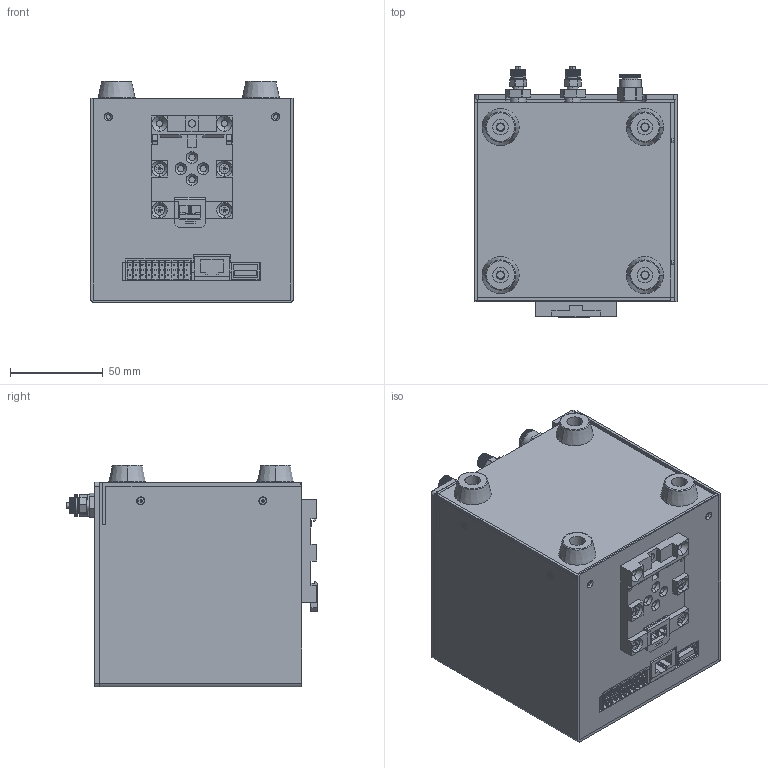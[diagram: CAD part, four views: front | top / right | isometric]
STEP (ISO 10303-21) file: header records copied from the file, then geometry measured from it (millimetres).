
FILE_DESCRIPTION (( 'STEP AP214' ), '1' );
FILE_NAME ('K3 series.STEP', '2025-08-01T14:49:50', ( '' ), ( '' ), 'SwSTEP 2.0', 'SolidWorks 2024', '' );
FILE_SCHEMA (( 'AUTOMOTIVE_DESIGN' ));
Length unit declared in the file: millimetre
Products named in the file (19): countersunk flat head cross recess screw_iso_ISO 7046-1 - M3 x 4 - Z - 4N; Aggancio barra din; countersunk flat head cross recess screw_iso_ISO 7046-1 - M2 x 3 - Z - 3N; Presa usb M8000; Piedino K3; Attacco bar din K3; Gancio attacco; Retro  K3 completo; Display K3; Presa aria innesto rapido K3; Frontale K3; Retro K3; Molla; Scocca K3; K3 series; Frontale basso K3; Porta di test anteriore K3; onnettore posteriore piccolo; Presa di rete K3
Assembly tree (32 placements, depth 4):
  K3 series
    Frontale K3
    Display K3
    Frontale basso K3
    Scocca K3
    countersunk flat head cross recess screw_iso_ISO 7046-1 - M2 x 3 - Z - 3N  x8
    Presa aria innesto rapido K3
    Retro  K3 completo
      Retro K3
      Aggancio barra din
        Attacco bar din K3
        Gancio attacco
        Molla
      countersunk flat head cross recess screw_iso_ISO 7046-1 - M3 x 4 - Z - 4N  x4
      Presa di rete K3
      onnettore posteriore piccolo
      Presa usb M8000
    Porta di test anteriore K3  x2
    Piedino K3  x4
Bounding box: 109.5 x 135.2 x 119.8 mm (x, y, z)
Volume: 202089.7 mm3; surface area: 195469.1 mm2
Topology: 31 solids, 31 shells, 4919 faces, 14683 edges, 9822 vertices
Faces by surface type: plane 4004, cylinder 588, cone 204, bspline 47, sphere 44, torus 32
Entity records: 105345 total; most frequent: CARTESIAN_POINT 25166, ORIENTED_EDGE 17486, DIRECTION 15546, EDGE_CURVE 8743, LINE 6814, VECTOR 6814, VERTEX_POINT 5890, AXIS2_PLACEMENT_3D 4366
